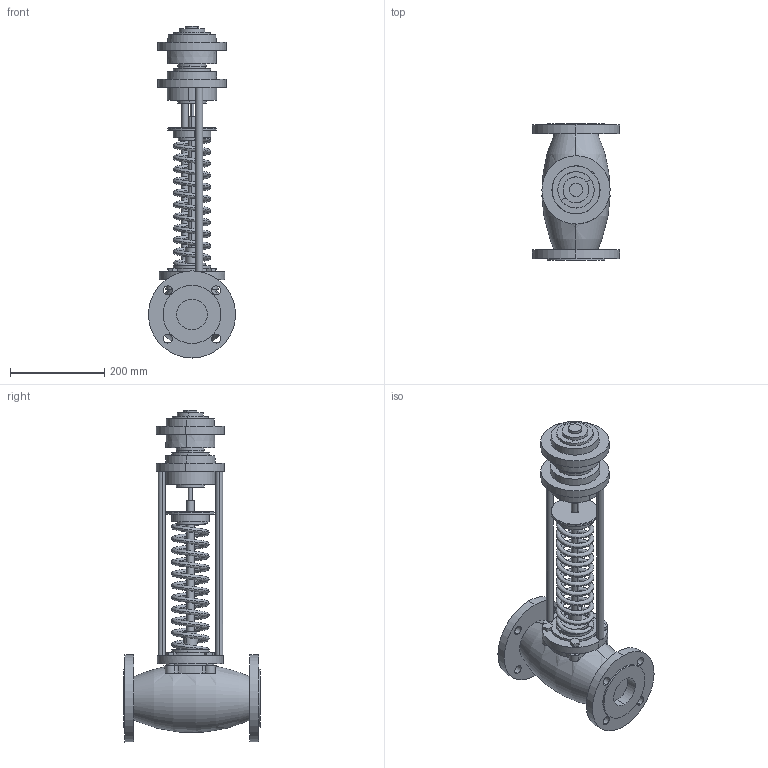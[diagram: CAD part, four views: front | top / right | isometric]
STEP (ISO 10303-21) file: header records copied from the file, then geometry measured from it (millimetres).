
FILE_DESCRIPTION (( 'STEP AP214' ), '1' );
FILE_NAME ('RDT-H-RDT-PH DN65 (0.1).stp', '2025-12-12T11:40:50', ( '' ), ( '' ), 'SwSTEP 2.0', 'SolidWorks 2023', '' );
FILE_SCHEMA (( 'AUTOMOTIVE_DESIGN' ));
Length unit declared in the file: millimetre
Products named in the file (1): RDT-H-RDT-PH DN65 (0.1)
Bounding box: 185 x 290 x 705 mm (x, y, z)
Volume: 6521820.9 mm3; surface area: 549901.6 mm2
Topology: 1 solids, 3 shells, 217 faces, 546 edges, 356 vertices
Faces by surface type: cylinder 101, plane 83, cone 27, torus 4, bspline 2
Entity records: 10976 total; most frequent: CARTESIAN_POINT 5531, DIRECTION 1185, ORIENTED_EDGE 1088, EDGE_CURVE 544, AXIS2_PLACEMENT_3D 475, VERTEX_POINT 355, EDGE_LOOP 279, CIRCLE 259
